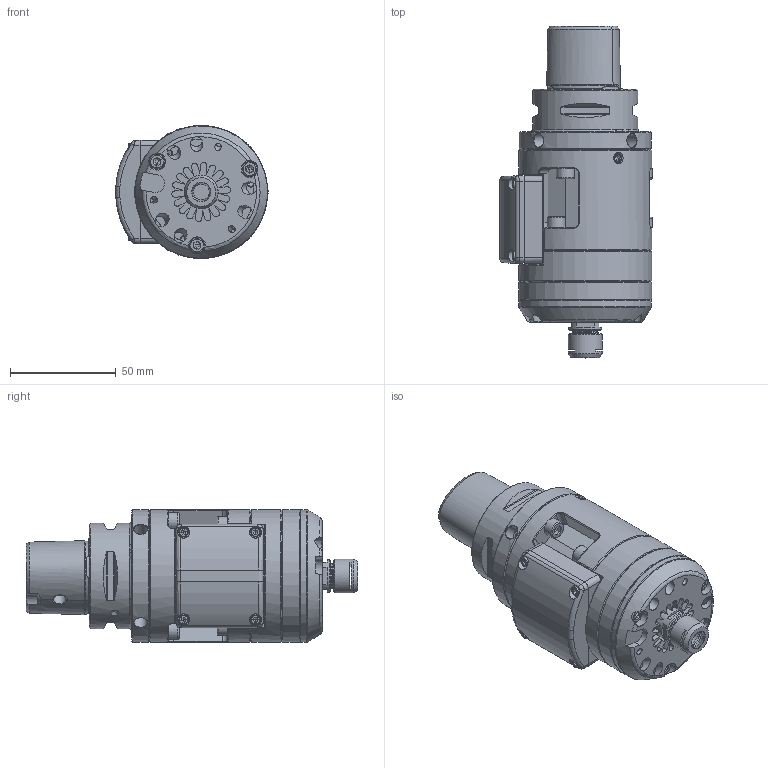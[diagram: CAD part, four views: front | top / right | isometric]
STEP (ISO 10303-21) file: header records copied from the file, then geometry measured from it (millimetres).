
FILE_DESCRIPTION (( 'STEP AP214' ), '1' );
FILE_NAME ('TJS GJET V4 C5.STEP', '2025-06-16T11:46:28', ( 'pc' ), ( '' ), 'SwSTEP 2.0', 'SolidWorks 2024', '' );
FILE_SCHEMA (( 'AUTOMOTIVE_DESIGN' ));
Length unit declared in the file: millimetre
Products named in the file (1): TJS GJET V4 C5
Bounding box: 72.25 x 157.3 x 63 mm (x, y, z)
Volume: 206602.9 mm3; surface area: 93077.9 mm2
Topology: 28 solids, 28 shells, 1447 faces, 3589 edges, 2215 vertices
Faces by surface type: plane 674, cylinder 359, cone 246, torus 96, bspline 72
Full cylindrical faces by diameter (mm): 2.5 x6, 3 x3, 3.3 x6, 4.2 x11, 4.3 x2, 4.5 x5, 5 x13, 5.5 x3, 5.8 x3, 6 x11, 6.1 x2, 6.2 x3, 6.4 x4, 6.5 x1, 7 x3, 7.5 x1, 7.65 x1, 7.8 x3, 8 x1, 8.5 x6, 11.21 x1, 11.3 x1, 12 x1, 12.2 x1, 12.3 x1, 13 x1, 13.2 x1, 14.5 x1, 15.5 x1, 16 x1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
Entity records: 56663 total; most frequent: CARTESIAN_POINT 24512, DIRECTION 6483, ORIENTED_EDGE 6332, EDGE_CURVE 3166, AXIS2_PLACEMENT_3D 2459, VERTEX_POINT 2101, EDGE_LOOP 1869, FACE_OUTER_BOUND 1615
